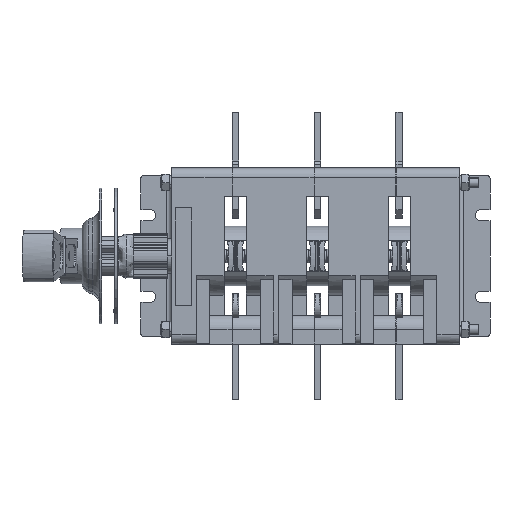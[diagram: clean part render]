
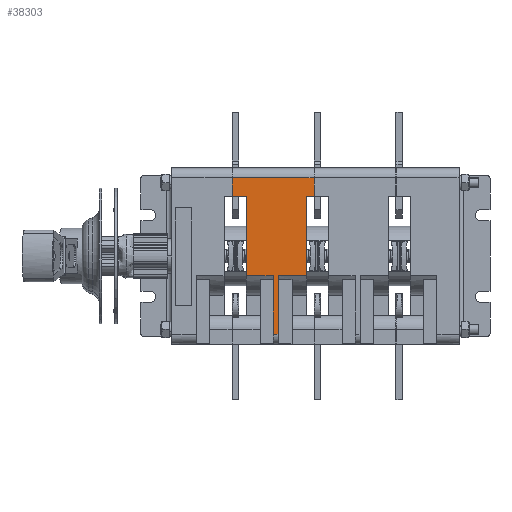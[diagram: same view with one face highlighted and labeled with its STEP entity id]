
A CAD part, front view. The second image highlights one B-rep face of the part: STEP entity #38303.
In plain terms, the highlighted planar face has unit normal (0, -1, 0) as drawn and (0, 1, 0) by its records, which use the part's own axes.
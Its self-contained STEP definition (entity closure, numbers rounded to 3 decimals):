
#639 = LINE ( 'NONE', #20360, #64399 ) ;
#1623 = CARTESIAN_POINT ( 'NONE',  ( 36.5, 24., 37. ) ) ;
#2043 = CARTESIAN_POINT ( 'NONE',  ( -12., 24., 49.423 ) ) ;
#4979 = CARTESIAN_POINT ( 'NONE',  ( 36.5, 24., 41.5 ) ) ;
#6444 = VERTEX_POINT ( 'NONE', #32073 ) ;
#6596 = AXIS2_PLACEMENT_3D ( 'NONE', #48132, #112805, #76318 ) ;
#6796 = EDGE_CURVE ( 'NONE', #99908, #8137, #30060, .T. ) ;
#7708 = VERTEX_POINT ( 'NONE', #105156 ) ;
#8137 = VERTEX_POINT ( 'NONE', #4979 ) ;
#10477 = EDGE_CURVE ( 'NONE', #7708, #115406, #30392, .T. ) ;
#11579 = DIRECTION ( 'NONE',  ( 0., 0., -1. ) ) ;
#12933 = CARTESIAN_POINT ( 'NONE',  ( -48., 24., 19.5 ) ) ;
#13215 = LINE ( 'NONE', #68296, #50187 ) ;
#14572 = DIRECTION ( 'NONE',  ( -1., 0., 0. ) ) ;
#14672 = CARTESIAN_POINT ( 'NONE',  ( 36.5, 24., -8.5 ) ) ;
#14976 = DIRECTION ( 'NONE',  ( -1., 0., 0. ) ) ;
#15028 = EDGE_CURVE ( 'NONE', #63555, #66683, #38918, .T. ) ;
#18215 = LINE ( 'NONE', #90379, #34452 ) ;
#20360 = CARTESIAN_POINT ( 'NONE',  ( 36.5, 24., 41.5 ) ) ;
#21156 = DIRECTION ( 'NONE',  ( 0., 0., -1. ) ) ;
#22746 = CARTESIAN_POINT ( 'NONE',  ( -12., 24., 16.5 ) ) ;
#24345 = CARTESIAN_POINT ( 'NONE',  ( 36.5, 24., 41.5 ) ) ;
#26294 = VERTEX_POINT ( 'NONE', #59398 ) ;
#28571 = FACE_OUTER_BOUND ( 'NONE', #96640, .T. ) ;
#30060 = LINE ( 'NONE', #24345, #114579 ) ;
#30392 = LINE ( 'NONE', #32123, #67604 ) ;
#32073 = CARTESIAN_POINT ( 'NONE',  ( -12., 24., 37. ) ) ;
#32123 = CARTESIAN_POINT ( 'NONE',  ( -48., 24., 19.5 ) ) ;
#34452 = VECTOR ( 'NONE', #14572, 1000. ) ;
#38258 = EDGE_CURVE ( 'NONE', #99908, #26294, #113180, .T. ) ;
#38293 = EDGE_CURVE ( 'NONE', #62472, #26294, #62616, .T. ) ;
#38303 = ADVANCED_FACE ( 'NONE', ( #28571 ), #65988, .F. ) ;
#38918 = LINE ( 'NONE', #56066, #86394 ) ;
#43422 = VECTOR ( 'NONE', #11579, 1000. ) ;
#46060 = CARTESIAN_POINT ( 'NONE',  ( 48., 24., 19.5 ) ) ;
#46132 = LINE ( 'NONE', #91233, #72888 ) ;
#48132 = CARTESIAN_POINT ( 'NONE',  ( -48., 24., 19.5 ) ) ;
#48816 = DIRECTION ( 'NONE',  ( 0., 0., -1. ) ) ;
#50187 = VECTOR ( 'NONE', #48816, 1000. ) ;
#50993 = LINE ( 'NONE', #14672, #110356 ) ;
#51099 = EDGE_CURVE ( 'NONE', #8137, #116701, #639, .T. ) ;
#52522 = ORIENTED_EDGE ( 'NONE', *, *, #10477, .F. ) ;
#56066 = CARTESIAN_POINT ( 'NONE',  ( -12., 24., -12.423 ) ) ;
#56095 = ORIENTED_EDGE ( 'NONE', *, *, #38258, .T. ) ;
#57280 = DIRECTION ( 'NONE',  ( 1., 0., 0. ) ) ;
#59398 = CARTESIAN_POINT ( 'NONE',  ( 48., 24., -8.5 ) ) ;
#59791 = VECTOR ( 'NONE', #112397, 1000. ) ;
#59896 = DIRECTION ( 'NONE',  ( -1., 0., 0. ) ) ;
#60840 = DIRECTION ( 'NONE',  ( -1., 0., 0. ) ) ;
#60845 = CARTESIAN_POINT ( 'NONE',  ( 36.5, 24., 0. ) ) ;
#62472 = VERTEX_POINT ( 'NONE', #114913 ) ;
#62616 = LINE ( 'NONE', #84217, #118974 ) ;
#62934 = EDGE_CURVE ( 'NONE', #116701, #6444, #46132, .T. ) ;
#63555 = VERTEX_POINT ( 'NONE', #106909 ) ;
#63956 = DIRECTION ( 'NONE',  ( -1., 0., 0. ) ) ;
#64295 = LINE ( 'NONE', #2043, #43422 ) ;
#64399 = VECTOR ( 'NONE', #21156, 1000. ) ;
#65988 = PLANE ( 'NONE',  #6596 ) ;
#66683 = VERTEX_POINT ( 'NONE', #22746 ) ;
#67604 = VECTOR ( 'NONE', #59896, 1000. ) ;
#68296 = CARTESIAN_POINT ( 'NONE',  ( -48., 24., 19.5 ) ) ;
#72888 = VECTOR ( 'NONE', #14976, 1000. ) ;
#73053 = ORIENTED_EDGE ( 'NONE', *, *, #51099, .F. ) ;
#76318 = DIRECTION ( 'NONE',  ( 1., 0., 0. ) ) ;
#79011 = CARTESIAN_POINT ( 'NONE',  ( 48., 24., 41.5 ) ) ;
#80687 = EDGE_CURVE ( 'NONE', #66683, #109943, #92818, .T. ) ;
#81506 = ORIENTED_EDGE ( 'NONE', *, *, #84937, .T. ) ;
#83277 = ORIENTED_EDGE ( 'NONE', *, *, #116687, .F. ) ;
#84217 = CARTESIAN_POINT ( 'NONE',  ( 48., 24., -8.5 ) ) ;
#84937 = EDGE_CURVE ( 'NONE', #62472, #103140, #50993, .T. ) ;
#86394 = VECTOR ( 'NONE', #95450, 1000. ) ;
#86870 = ORIENTED_EDGE ( 'NONE', *, *, #15028, .T. ) ;
#90379 = CARTESIAN_POINT ( 'NONE',  ( 36.5, 24., 0. ) ) ;
#90612 = CARTESIAN_POINT ( 'NONE',  ( -48., 24., 16.5 ) ) ;
#91233 = CARTESIAN_POINT ( 'NONE',  ( 36.5, 24., 37. ) ) ;
#91989 = ORIENTED_EDGE ( 'NONE', *, *, #101412, .T. ) ;
#92818 = LINE ( 'NONE', #111602, #120964 ) ;
#95450 = DIRECTION ( 'NONE',  ( 0., 0., 1. ) ) ;
#96640 = EDGE_LOOP ( 'NONE', ( #52522, #83277, #103971, #73053, #108928, #56095, #100790, #81506, #91989, #86870, #106061, #108476 ) ) ;
#99908 = VERTEX_POINT ( 'NONE', #79011 ) ;
#100790 = ORIENTED_EDGE ( 'NONE', *, *, #38293, .F. ) ;
#101412 = EDGE_CURVE ( 'NONE', #103140, #63555, #18215, .T. ) ;
#103140 = VERTEX_POINT ( 'NONE', #60845 ) ;
#103971 = ORIENTED_EDGE ( 'NONE', *, *, #62934, .F. ) ;
#105156 = CARTESIAN_POINT ( 'NONE',  ( -12., 24., 19.5 ) ) ;
#106061 = ORIENTED_EDGE ( 'NONE', *, *, #80687, .T. ) ;
#106346 = EDGE_CURVE ( 'NONE', #115406, #109943, #13215, .T. ) ;
#106909 = CARTESIAN_POINT ( 'NONE',  ( -12., 24., 0. ) ) ;
#108476 = ORIENTED_EDGE ( 'NONE', *, *, #106346, .F. ) ;
#108928 = ORIENTED_EDGE ( 'NONE', *, *, #6796, .F. ) ;
#109943 = VERTEX_POINT ( 'NONE', #90612 ) ;
#110356 = VECTOR ( 'NONE', #110386, 1000. ) ;
#110386 = DIRECTION ( 'NONE',  ( 0., 0., 1. ) ) ;
#111602 = CARTESIAN_POINT ( 'NONE',  ( -48., 24., 16.5 ) ) ;
#112397 = DIRECTION ( 'NONE',  ( 0., 0., -1. ) ) ;
#112805 = DIRECTION ( 'NONE',  ( 0., -1., 0. ) ) ;
#113180 = LINE ( 'NONE', #46060, #59791 ) ;
#114579 = VECTOR ( 'NONE', #60840, 1000. ) ;
#114913 = CARTESIAN_POINT ( 'NONE',  ( 36.5, 24., -8.5 ) ) ;
#115406 = VERTEX_POINT ( 'NONE', #12933 ) ;
#116687 = EDGE_CURVE ( 'NONE', #6444, #7708, #64295, .T. ) ;
#116701 = VERTEX_POINT ( 'NONE', #1623 ) ;
#118974 = VECTOR ( 'NONE', #57280, 1000. ) ;
#120964 = VECTOR ( 'NONE', #63956, 1000. ) ;
